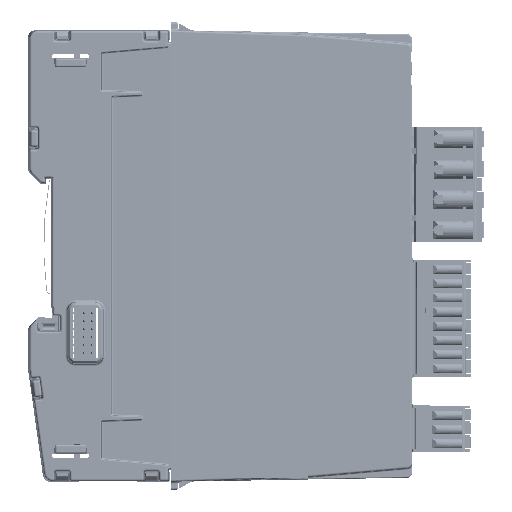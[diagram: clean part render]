
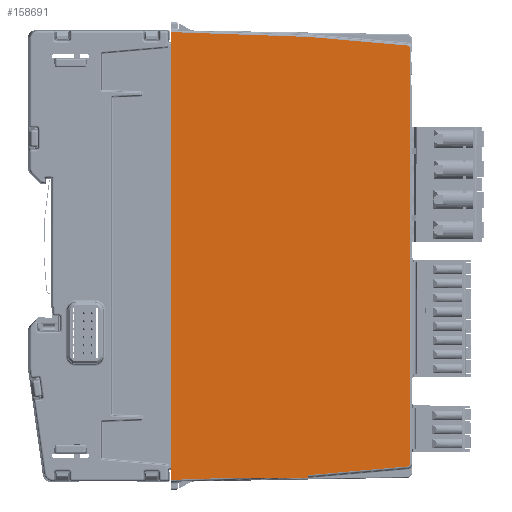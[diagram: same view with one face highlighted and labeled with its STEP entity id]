
A CAD part, left-side view. The second image highlights one B-rep face of the part: STEP entity #158691.
In plain terms, the highlighted planar face has unit normal (-1, -0.018, 0).
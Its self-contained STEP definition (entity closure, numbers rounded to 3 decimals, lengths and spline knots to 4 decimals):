
#4848=ELLIPSE('',#170839,0.0315,0.0315);
#4849=ELLIPSE('',#170840,0.0315,0.0315);
#9749=PLANE('',#170838);
#17389=FACE_OUTER_BOUND('',#26233,.T.);
#26233=EDGE_LOOP('',(#137020,#137021,#137022,#137023,#137024,#137025,#137026,
#137027,#137028,#137029,#137030,#137031,#137032));
#45514=LINE('',#269800,#61466);
#45527=LINE('',#269872,#61479);
#45584=LINE('',#270100,#61536);
#45909=LINE('',#271474,#61861);
#45910=LINE('',#271476,#61862);
#45911=LINE('',#271480,#61863);
#45912=LINE('',#271484,#61864);
#45913=LINE('',#271486,#61865);
#45914=LINE('',#271488,#61866);
#45915=LINE('',#271490,#61867);
#45916=LINE('',#271491,#61868);
#61466=VECTOR('',#207449,0.3937);
#61479=VECTOR('',#207490,0.3937);
#61536=VECTOR('',#207685,39.3701);
#61861=VECTOR('',#208414,39.3701);
#61862=VECTOR('',#208415,39.3701);
#61863=VECTOR('',#208418,39.3701);
#61864=VECTOR('',#208421,39.3701);
#61865=VECTOR('',#208422,39.3701);
#61866=VECTOR('',#208423,39.3701);
#61867=VECTOR('',#208424,39.3701);
#61868=VECTOR('',#208425,39.3701);
#75592=VERTEX_POINT('',#269796);
#75594=VERTEX_POINT('',#269799);
#75616=VERTEX_POINT('',#269867);
#75674=VERTEX_POINT('',#270099);
#76005=VERTEX_POINT('',#271473);
#76006=VERTEX_POINT('',#271475);
#76007=VERTEX_POINT('',#271477);
#76008=VERTEX_POINT('',#271479);
#76009=VERTEX_POINT('',#271481);
#76010=VERTEX_POINT('',#271483);
#76011=VERTEX_POINT('',#271485);
#76012=VERTEX_POINT('',#271487);
#76013=VERTEX_POINT('',#271489);
#96035=EDGE_CURVE('',#75592,#75594,#45514,.T.);
#96062=EDGE_CURVE('',#75594,#75616,#45527,.T.);
#96155=EDGE_CURVE('',#75674,#75616,#45584,.T.);
#96628=EDGE_CURVE('',#75592,#76005,#45909,.T.);
#96629=EDGE_CURVE('',#76005,#76006,#45910,.T.);
#96630=EDGE_CURVE('',#76006,#76007,#4848,.T.);
#96631=EDGE_CURVE('',#76007,#76008,#45911,.T.);
#96632=EDGE_CURVE('',#76008,#76009,#4849,.T.);
#96633=EDGE_CURVE('',#76009,#76010,#45912,.T.);
#96634=EDGE_CURVE('',#76010,#76011,#45913,.T.);
#96635=EDGE_CURVE('',#76011,#76012,#45914,.T.);
#96636=EDGE_CURVE('',#76013,#76012,#45915,.T.);
#96637=EDGE_CURVE('',#76013,#75674,#45916,.T.);
#137020=ORIENTED_EDGE('',*,*,#96628,.T.);
#137021=ORIENTED_EDGE('',*,*,#96629,.T.);
#137022=ORIENTED_EDGE('',*,*,#96630,.T.);
#137023=ORIENTED_EDGE('',*,*,#96631,.T.);
#137024=ORIENTED_EDGE('',*,*,#96632,.T.);
#137025=ORIENTED_EDGE('',*,*,#96633,.T.);
#137026=ORIENTED_EDGE('',*,*,#96634,.T.);
#137027=ORIENTED_EDGE('',*,*,#96635,.T.);
#137028=ORIENTED_EDGE('',*,*,#96636,.F.);
#137029=ORIENTED_EDGE('',*,*,#96637,.T.);
#137030=ORIENTED_EDGE('',*,*,#96155,.T.);
#137031=ORIENTED_EDGE('',*,*,#96062,.F.);
#137032=ORIENTED_EDGE('',*,*,#96035,.F.);
#158691=ADVANCED_FACE('',(#17389),#9749,.T.);
#170838=AXIS2_PLACEMENT_3D('',#271472,#208412,#208413);
#170839=AXIS2_PLACEMENT_3D('',#271478,#208416,#208417);
#170840=AXIS2_PLACEMENT_3D('',#271482,#208419,#208420);
#207449=DIRECTION('',(0.,0.,-1.));
#207490=DIRECTION('',(-0.017,1.,0.));
#207685=DIRECTION('',(0.017,-0.999,0.035));
#208412=DIRECTION('center_axis',(-1.,-0.017,
0.));
#208413=DIRECTION('ref_axis',(-0.017,1.,0.));
#208414=DIRECTION('',(0.017,-0.999,0.035));
#208415=DIRECTION('',(0.017,-0.996,0.087));
#208416=DIRECTION('center_axis',(-1.,-0.017,
0.));
#208417=DIRECTION('ref_axis',(0.017,-1.,0.));
#208418=DIRECTION('',(0.,0.,1.));
#208419=DIRECTION('center_axis',(-1.,-0.017,
0.));
#208420=DIRECTION('ref_axis',(0.017,-1.,0.));
#208421=DIRECTION('',(-0.017,0.996,0.087));
#208422=DIRECTION('',(-0.017,0.999,0.035));
#208423=DIRECTION('',(0.,0.,-1.));
#208424=DIRECTION('',(0.,0.,1.));
#208425=DIRECTION('',(0.,0.,-1.));
#269796=CARTESIAN_POINT('',(0.0005,-2.2096,-4.1958));
#269799=CARTESIAN_POINT('',(0.0005,-2.2096,-4.2206));
#269800=CARTESIAN_POINT('',(0.0005,-2.2096,-3.155));
#269867=CARTESIAN_POINT('',(-0.0119,-1.4997,-4.2206));
#269872=CARTESIAN_POINT('',(-0.0131,-1.4351,-4.2206));
#270099=CARTESIAN_POINT('',(-0.0227,-0.8827,-4.2421));
#270100=CARTESIAN_POINT('',(-0.0282,-0.5654,-4.2532));
#271472=CARTESIAN_POINT('Origin',(-0.0296,-0.489,
-2.0669));
#271473=CARTESIAN_POINT('',(0.0007,-2.2205,-4.1954));
#271474=CARTESIAN_POINT('',(-0.0282,-0.5654,-4.2532));
#271475=CARTESIAN_POINT('',(0.0174,-3.1772,-4.1117));
#271476=CARTESIAN_POINT('',(-0.0261,-0.6869,-4.3296));
#271477=CARTESIAN_POINT('',(0.0179,-3.2059,-4.0803));
#271478=CARTESIAN_POINT('Origin',(0.0173,-3.1744,
-4.0803));
#271479=CARTESIAN_POINT('',(0.0179,-3.2059,-0.0535));
#271480=CARTESIAN_POINT('',(0.0179,-3.2059,-0.0535));
#271481=CARTESIAN_POINT('',(0.0174,-3.1772,-0.0221));
#271482=CARTESIAN_POINT('Origin',(0.0173,-3.1744,
-0.0535));
#271483=CARTESIAN_POINT('',(0.0007,-2.2205,0.0616));
#271484=CARTESIAN_POINT('',(-0.0261,-0.6869,0.1957));
#271485=CARTESIAN_POINT('',(-0.0227,-0.8827,0.1083));
#271486=CARTESIAN_POINT('',(-0.0282,-0.5654,0.1194));
#271487=CARTESIAN_POINT('',(-0.0227,-0.8827,-0.0312));
#271488=CARTESIAN_POINT('',(-0.0227,-0.8827,0.128));
#271489=CARTESIAN_POINT('',(-0.0227,-0.8827,-4.1027));
#271490=CARTESIAN_POINT('',(-0.0227,-0.8827,-7.5932));
#271491=CARTESIAN_POINT('',(-0.0227,-0.8827,0.128));
